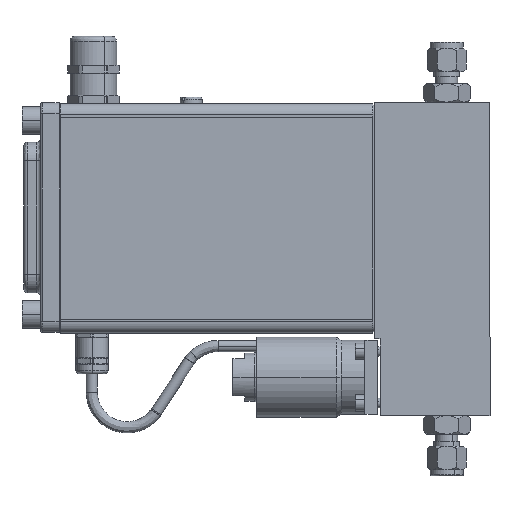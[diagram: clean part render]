
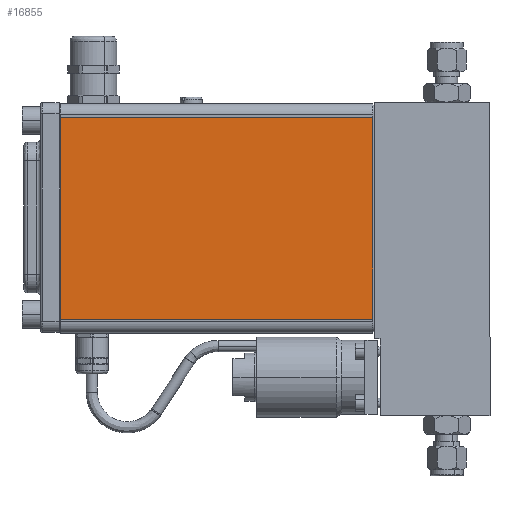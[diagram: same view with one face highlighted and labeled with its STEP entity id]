
A CAD part, left-side view. The second image highlights one B-rep face of the part: STEP entity #16855.
In plain terms, the highlighted planar face has unit normal (-1, 0, 0).
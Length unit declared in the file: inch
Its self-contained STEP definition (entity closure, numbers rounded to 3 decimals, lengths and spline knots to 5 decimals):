
#2659 = LINE ( 'NONE', #7555, #6671 ) ;
#3101 = DIRECTION ( 'NONE',  ( 0., -1., 0. ) ) ;
#3287 = DIRECTION ( 'NONE',  ( 0., 0., 1. ) ) ;
#4709 = EDGE_LOOP ( 'NONE', ( #5786, #10889, #14675, #17902 ) ) ;
#4811 = DIRECTION ( 'NONE',  ( 0., -1., 0. ) ) ;
#5429 = CARTESIAN_POINT ( 'NONE',  ( -3.79089, 2.85335, 0.72436 ) ) ;
#5786 = ORIENTED_EDGE ( 'NONE', *, *, #10370, .F. ) ;
#6671 = VECTOR ( 'NONE', #3101, 39.37008 ) ;
#6793 = CARTESIAN_POINT ( 'NONE',  ( -3.79089, 2.85335, 4.11736 ) ) ;
#7555 = CARTESIAN_POINT ( 'NONE',  ( -3.79089, 2.85335, 4.11736 ) ) ;
#7751 = VERTEX_POINT ( 'NONE', #25224 ) ;
#8656 = VERTEX_POINT ( 'NONE', #6793 ) ;
#8986 = DIRECTION ( 'NONE',  ( 0., 0., -1. ) ) ;
#10370 = EDGE_CURVE ( 'NONE', #19531, #8656, #23780, .T. ) ;
#10889 = ORIENTED_EDGE ( 'NONE', *, *, #18999, .F. ) ;
#11419 = VERTEX_POINT ( 'NONE', #20076 ) ;
#13053 = EDGE_CURVE ( 'NONE', #8656, #7751, #2659, .T. ) ;
#14675 = ORIENTED_EDGE ( 'NONE', *, *, #21405, .F. ) ;
#16740 = LINE ( 'NONE', #5429, #20149 ) ;
#16855 = ADVANCED_FACE ( 'NONE', ( #20419 ), #18334, .F. ) ;
#17031 = DIRECTION ( 'NONE',  ( 0., 1., 0. ) ) ;
#17902 = ORIENTED_EDGE ( 'NONE', *, *, #13053, .F. ) ;
#18334 = PLANE ( 'NONE',  #18645 ) ;
#18645 = AXIS2_PLACEMENT_3D ( 'NONE', #27398, #20110, #4811 ) ;
#18999 = EDGE_CURVE ( 'NONE', #11419, #19531, #16740, .T. ) ;
#19033 = CARTESIAN_POINT ( 'NONE',  ( -3.79089, 2.85335, 0.72436 ) ) ;
#19531 = VERTEX_POINT ( 'NONE', #19033 ) ;
#20076 = CARTESIAN_POINT ( 'NONE',  ( -3.79089, -2.39665, 0.72436 ) ) ;
#20110 = DIRECTION ( 'NONE',  ( 1., 0., 0. ) ) ;
#20149 = VECTOR ( 'NONE', #17031, 39.37008 ) ;
#20270 = LINE ( 'NONE', #24589, #26845 ) ;
#20419 = FACE_OUTER_BOUND ( 'NONE', #4709, .T. ) ;
#21405 = EDGE_CURVE ( 'NONE', #7751, #11419, #20270, .T. ) ;
#21480 = VECTOR ( 'NONE', #3287, 39.37008 ) ;
#23780 = LINE ( 'NONE', #26293, #21480 ) ;
#24589 = CARTESIAN_POINT ( 'NONE',  ( -3.79089, -2.39665, 4.11736 ) ) ;
#25224 = CARTESIAN_POINT ( 'NONE',  ( -3.79089, -2.39665, 4.11736 ) ) ;
#26293 = CARTESIAN_POINT ( 'NONE',  ( -3.79089, 2.85335, 4.11736 ) ) ;
#26845 = VECTOR ( 'NONE', #8986, 39.37008 ) ;
#27398 = CARTESIAN_POINT ( 'NONE',  ( -3.79089, 2.85335, 4.11736 ) ) ;
